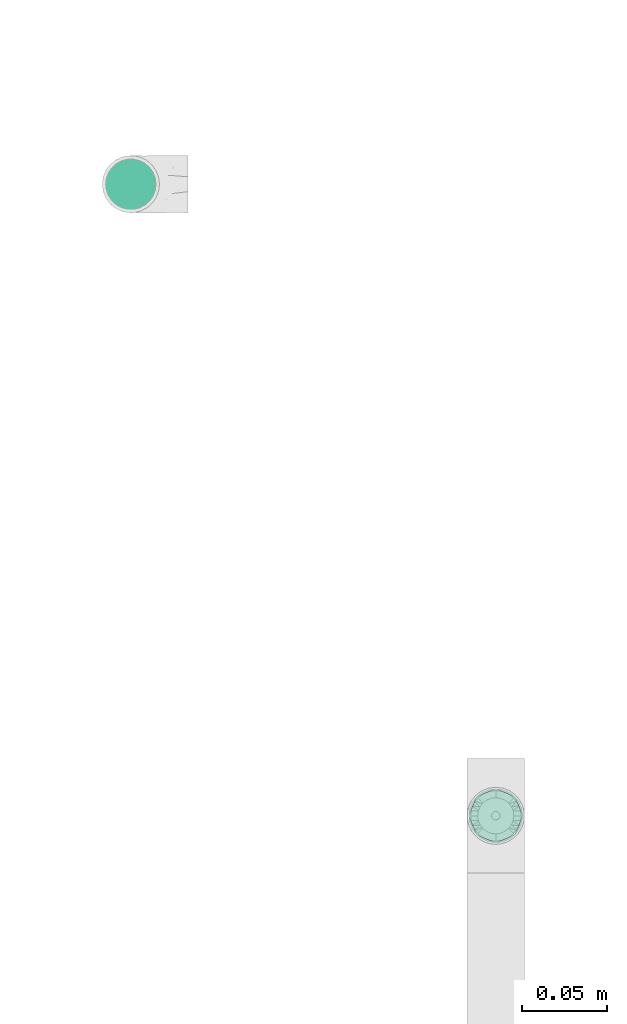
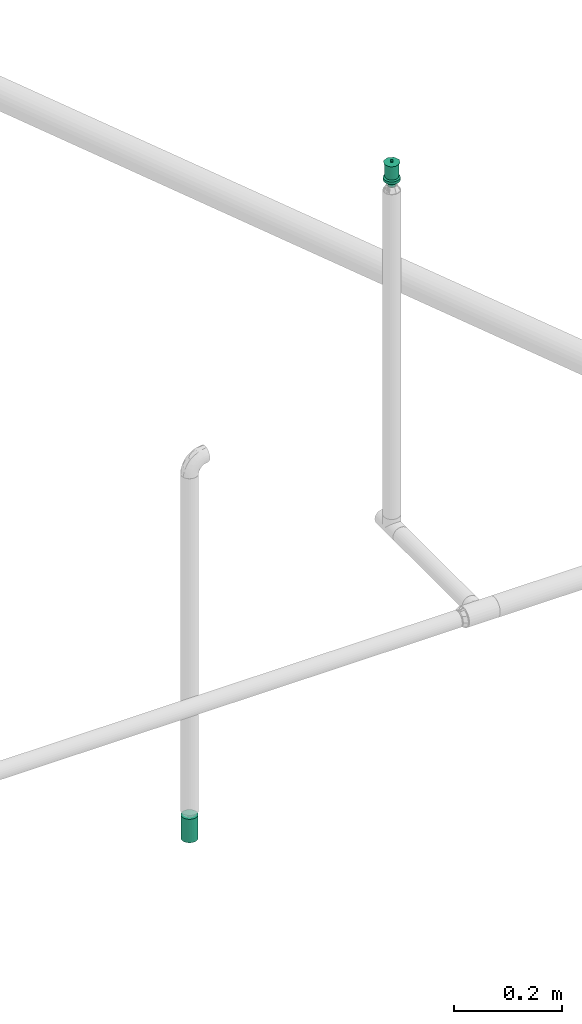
# One storey, part 35 of 94: 2 flow terminals.
"""IFC2X3 building model written with IfcOpenShell, lengths in millimetres."""

from ifc_helpers import new_model, entity, si_unit, converted_unit, derived_unit, direction, frame, origin_with_axes, place, context, subcontext, project, spatial, open_shell, surface_model, source, transform, mapped, type_object, element, save


model = new_model("IFC2X3")

# Units and contexts
model_context = context("Model", 3, precision=0.01, world=frame((0.0, 4.29681676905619e-09, 0.0)), true_north=direction((4.01073788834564e-13, 1.0)))
plan_context = context("Plan", 3, precision=0.01, world=frame((0.0, 4.29681676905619e-09, 0.0)), true_north=direction((4.01073788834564e-13, 1.0)))
body_context = subcontext(model_context, "Body", "Model", "MODEL_VIEW")
ifc_project = project(units=[converted_unit("PLANEANGLEUNIT", "DEGREE", entity("IfcPositiveLengthMeasure", 0.0174532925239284), si_unit("PLANEANGLEUNIT", "RADIAN"), dimensions=[0, 0, 0, 0, 0, 0, 0]), si_unit("AREAUNIT", "SQUARE_METRE"), si_unit("LENGTHUNIT", "METRE", prefix="MILLI"), si_unit("MASSUNIT", "GRAM", prefix="KILO"), si_unit("POWERUNIT", "WATT"), si_unit("PRESSUREUNIT", "PASCAL", prefix="KILO"), si_unit("FORCEUNIT", "NEWTON", prefix="KILO"), si_unit("ELECTRICVOLTAGEUNIT", "VOLT"), si_unit("ELECTRICCURRENTUNIT", "AMPERE"), si_unit("THERMODYNAMICTEMPERATUREUNIT", "DEGREE_CELSIUS"), si_unit("TIMEUNIT", "SECOND"), si_unit("VOLUMEUNIT", "CUBIC_METRE"), derived_unit("LINEARVELOCITYUNIT", [(si_unit("LENGTHUNIT", "METRE"), 1), (si_unit("TIMEUNIT", "SECOND"), -1)]), derived_unit("VOLUMETRICFLOWRATEUNIT", [(si_unit("VOLUMEUNIT", "CUBIC_METRE"), 1), (si_unit("TIMEUNIT", "SECOND"), -1)]), derived_unit("THERMALTRANSMITTANCEUNIT", [(si_unit("POWERUNIT", "WATT"), 1), (si_unit("THERMODYNAMICTEMPERATUREUNIT", "KELVIN"), -1), (si_unit("AREAUNIT", "SQUARE_METRE"), -1)]), derived_unit("SOUNDPRESSUREUNIT", [(si_unit("PRESSUREUNIT", "PASCAL"), 1)])], contexts=[model_context, plan_context])

# Site, building, storey
site_placement = place(None, frame((0.0, -4.29681676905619e-09, 0.0), z_axis=(0.0, 0.0, 1.0), x_axis=(1.0, 0.0, 0.0)))
site = spatial("IfcSite", under=ifc_project, at=site_placement, CompositionType="ELEMENT")
building_placement = place(site_placement, frame((0.0, 4.29681676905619e-09, 0.0), z_axis=(0.0, 0.0, 1.0), x_axis=(1.0, 0.0, 0.0)))
building = spatial("IfcBuilding", under=site, at=building_placement, Name="mc-building", CompositionType="ELEMENT")
storey_placement = place(building_placement, frame((0.0, 0.0, 210900.0), z_axis=(0.0, 0.0, 1.0), x_axis=(1.0, 0.0, 0.0)))
storey = spatial("IfcBuildingStorey", under=building, at=storey_placement, Name="Nivå F", CompositionType="ELEMENT", Elevation=210900.0)

# Flow terminals
fire_suppression_terminal_type_1 = type_object("IfcFireSuppressionTerminalType", Name="68DGR-STD-STÅENDE", PredefinedType="NOTDEFINED")
shared_shape_1 = source(origin_with_axes(), body_context, "Body", "SurfaceModel", [
    surface_model("IfcShellBasedSurfaceModel", [(3.36465, -12.55704, 51.0), (6.5, -11.25833, 51.0), (9.19239, -9.19239, 51.0), (12.55704, -3.36465, 51.0), (-11.25833, -6.5, 51.0), (11.25833, -6.5, 51.0), (-13.0, 0.0, 51.0), (0.0, -13.0, 51.0), (-6.5, -11.25833, 51.0), (-3.36465, -12.55704, 51.0), (-9.19239, -9.19239, 51.0), (-12.55704, -3.36465, 51.0), (13.0, 0.0, 51.0), (12.55704, 3.36465, 51.0), (11.25833, 6.5, 51.0), (9.19239, 9.19239, 51.0), (6.5, 11.25833, 51.0), (3.36465, 12.55704, 51.0), (0.0, 13.0, 51.0), (-3.36465, 12.55704, 51.0), (-12.55704, 3.36465, 51.0), (-9.19239, 9.19239, 51.0), (-11.25833, 6.5, 51.0), (-6.5, 11.25833, 51.0), (0.0, 13.0, 21.14766), (3.36465, 12.55704, 21.14766), (6.5, 11.25833, 21.14766), (-3.36465, 12.55704, 21.14766), (9.19239, 9.19239, 21.14766), (11.25833, 6.5, 21.14766), (12.55704, 3.36465, 21.14766), (-12.55704, 3.36465, 21.14766), (-11.25833, -6.5, 21.14766), (-9.19239, 9.19239, 21.14766), (-6.5, 11.25833, 21.14766), (-11.25833, 6.5, 21.14766), (-13.0, 0.0, 21.14766), (12.55704, -3.36465, 21.14766), (9.19239, -9.19239, 21.14766), (11.25833, -6.5, 21.14766), (6.5, -11.25833, 21.14766), (3.36465, -12.55704, 21.14766), (-6.5, -11.25833, 21.14766), (-9.19239, -9.19239, 21.14766), (-12.55704, -3.36465, 21.14766), (0.0, -13.0, 21.14766), (-3.36465, -12.55704, 21.14766), (13.0, 0.0, 21.14766), (7.24444, -1.94114, 0.1), (1.94114, -7.24444, 0.1), (3.75, -6.49519, 0.1), (5.3033, -5.3033, 0.1), (-5.3033, -5.3033, 0.1), (6.49519, -3.75, 0.1), (5.3033, 5.3033, 0.1), (0.0, -7.5, 0.1), (-3.75, -6.49519, 0.1), (-1.94114, -7.24444, 0.1), (-7.24444, -1.94114, 0.1), (-6.49519, -3.75, 0.1), (-7.24444, 1.94114, 0.1), (7.5, 0.0, 0.1), (6.49519, 3.75, 0.1), (-6.49519, 3.75, 0.1), (1.94114, 7.24444, 0.1), (0.0, 7.5, 0.1), (3.75, 6.49519, 0.1), (-7.5, 0.0, 0.1), (-5.3033, 5.3033, 0.1), (-1.94114, 7.24444, 0.1), (-3.75, 6.49519, 0.1), (7.24444, 1.94114, 0.1), (1.94114, 7.24444, -0.1), (-6.49519, 3.75, -0.1), (0.0, 7.5, -0.1), (5.3033, 5.3033, -0.1), (3.75, 6.49519, -0.1), (6.49519, 3.75, -0.1), (7.24444, 1.94114, -0.1), (-1.94114, 7.24444, -0.1), (-5.3033, 5.3033, -0.1), (-3.75, 6.49519, -0.1), (-7.24444, 1.94114, -0.1), (-7.24444, -1.94114, -0.1), (-7.5, 0.0, -0.1), (7.5, 0.0, -0.1), (7.24444, -1.94114, -0.1), (-5.3033, -5.3033, -0.1), (1.94114, -7.24444, -0.1), (6.49519, -3.75, -0.1), (5.3033, -5.3033, -0.1), (3.75, -6.49519, -0.1), (-6.49519, -3.75, -0.1), (-3.75, -6.49519, -0.1), (0.0, -7.5, -0.1), (-1.94114, -7.24444, -0.1), (0.0, -2.5, 51.0), (-2.5, 0.0, 51.0), (0.0, 2.5, 51.0), (2.5, 0.0, 51.0), (0.0, -16.0, 53.0), (11.31371, -11.31371, 53.0), (-11.31371, -11.31371, 53.0), (-16.0, 0.0, 53.0), (16.0, 0.0, 53.0), (11.31371, 11.31371, 53.0), (0.0, 16.0, 53.0), (-11.31371, 11.31371, 53.0), (1.25, -2.16506, 57.0), (0.0, -2.5, 57.0), (0.64705, -2.41481, 57.0), (2.41481, -0.64705, 57.0), (1.76777, -1.76777, 57.0), (-2.41481, -0.64705, 57.0), (-2.5, 0.0, 57.0), (2.16506, -1.25, 57.0), (-1.25, -2.16506, 57.0), (-0.64705, -2.41481, 57.0), (-1.76777, -1.76777, 57.0), (-2.16506, -1.25, 57.0), (2.5, 0.0, 57.0), (2.41481, 0.64705, 57.0), (2.16506, 1.25, 57.0), (1.76777, 1.76777, 57.0), (0.64705, 2.41481, 57.0), (1.25, 2.16506, 57.0), (-1.76777, 1.76777, 57.0), (0.0, 2.5, 57.0), (-2.16506, 1.25, 57.0), (-2.41481, 0.64705, 57.0), (-0.64705, 2.41481, 57.0), (-1.25, 2.16506, 57.0), (1.25, 2.16506, 51.0), (1.76777, 1.76777, 51.0), (1.15, 1.99186, 51.0), (0.59528, 2.22163, 51.0), (0.64705, 2.41481, 51.0), (0.0, 2.3, 51.0), (1.62635, 1.62635, 51.0), (2.41481, 0.64705, 51.0), (2.3, 0.0, 51.0), (2.22163, 0.59528, 51.0), (2.16506, 1.25, 51.0), (1.99186, 1.15, 51.0), (-0.59528, 2.22163, 51.0), (-0.64705, 2.41481, 51.0), (-1.15, 1.99186, 51.0), (-1.76777, 1.76777, 51.0), (-1.25, 2.16506, 51.0), (-1.62635, 1.62635, 51.0), (-1.99186, 1.15, 51.0), (-2.16506, 1.25, 51.0), (-2.22163, 0.59528, 51.0), (-2.41481, 0.64705, 51.0), (-2.3, 0.0, 51.0), (2.41481, -0.64705, 51.0), (2.22163, -0.59528, 51.0), (1.99186, -1.15, 51.0), (2.16506, -1.25, 51.0), (1.62635, -1.62635, 51.0), (1.76777, -1.76777, 51.0), (1.25, -2.16506, 51.0), (1.15, -1.99186, 51.0), (0.59528, -2.22163, 51.0), (0.64705, -2.41481, 51.0), (0.0, -2.3, 51.0), (-2.16506, -1.25, 51.0), (-1.99186, -1.15, 51.0), (-1.76777, -1.76777, 51.0), (-1.62635, -1.62635, 51.0), (-2.41481, -0.64705, 51.0), (-2.22163, -0.59528, 51.0), (-0.59528, -2.22163, 51.0), (-0.64705, -2.41481, 51.0), (-1.15, -1.99186, 51.0), (-1.25, -2.16506, 51.0), (1.62635, -1.62635, 56.8), (1.15, -1.99186, 56.8), (0.59528, -2.22163, 56.8), (0.0, -2.3, 56.8), (2.22163, 0.59528, 56.8), (1.99186, -1.15, 56.8), (2.22163, -0.59528, 56.8), (-0.59528, -2.22163, 56.8), (-1.15, -1.99186, 56.8), (-1.62635, -1.62635, 56.8), (-1.99186, -1.15, 56.8), (-2.22163, -0.59528, 56.8), (-1.99186, 1.15, 56.8), (2.3, 0.0, 56.8), (1.62635, 1.62635, 56.8), (1.99186, 1.15, 56.8), (1.15, 1.99186, 56.8), (0.0, 2.3, 56.8), (0.59528, 2.22163, 56.8), (-2.22163, 0.59528, 56.8), (-2.3, 0.0, 56.8), (-1.15, 1.99186, 56.8), (-0.59528, 2.22163, 56.8), (-1.62635, 1.62635, 56.8), (4.1411, -15.45481, 19.0), (8.0, -13.85641, 19.0), (11.31371, -11.31371, 19.0), (-8.0, -13.85641, 19.0), (15.45481, -4.1411, 19.0), (16.0, 0.0, 19.0), (13.85641, -8.0, 19.0), (0.0, -16.0, 19.0), (-4.1411, -15.45481, 19.0), (-13.85641, -8.0, 19.0), (-11.31371, -11.31371, 19.0), (-15.45481, -4.1411, 19.0), (15.45481, 4.1411, 19.0), (13.85641, 8.0, 19.0), (11.31371, 11.31371, 19.0), (-4.1411, 15.45481, 19.0), (8.0, 13.85641, 19.0), (4.1411, 15.45481, 19.0), (0.0, 16.0, 19.0), (-13.85641, 8.0, 19.0), (-15.45481, 4.1411, 19.0), (-16.0, 0.0, 19.0), (-11.31371, 11.31371, 19.0), (-8.0, 13.85641, 19.0), (0.0, 16.0, 13.0), (4.1411, 15.45481, 13.0), (8.0, 13.85641, 13.0), (-4.1411, 15.45481, 13.0), (11.31371, 11.31371, 13.0), (13.85641, 8.0, 13.0), (15.45481, 4.1411, 13.0), (-15.45481, -4.1411, 13.0), (-11.31371, 11.31371, 13.0), (-8.0, 13.85641, 13.0), (-13.85641, 8.0, 13.0), (-15.45481, 4.1411, 13.0), (-16.0, 0.0, 13.0), (4.1411, -15.45481, 13.0), (16.0, 0.0, 13.0), (15.45481, -4.1411, 13.0), (13.85641, -8.0, 13.0), (11.31371, -11.31371, 13.0), (8.0, -13.85641, 13.0), (-8.0, -13.85641, 13.0), (-13.85641, -8.0, 13.0), (-11.31371, -11.31371, 13.0), (0.0, -16.0, 13.0), (-4.1411, -15.45481, 13.0), (7.24444, -1.94114, 13.0), (1.94114, -7.24444, 13.0), (3.75, -6.49519, 13.0), (5.3033, -5.3033, 13.0), (-5.3033, -5.3033, 13.0), (6.49519, -3.75, 13.0), (5.3033, 5.3033, 13.0), (0.0, -7.5, 13.0), (-3.75, -6.49519, 13.0), (-1.94114, -7.24444, 13.0), (-7.24444, -1.94114, 13.0), (-6.49519, -3.75, 13.0), (-7.24444, 1.94114, 13.0), (7.5, 0.0, 13.0), (6.49519, 3.75, 13.0), (-6.49519, 3.75, 13.0), (1.94114, 7.24444, 13.0), (0.0, 7.5, 13.0), (3.75, 6.49519, 13.0), (-7.5, 0.0, 13.0), (-5.3033, 5.3033, 13.0), (-1.94114, 7.24444, 13.0), (-3.75, 6.49519, 13.0), (7.24444, 1.94114, 13.0), (3.75, 6.49519, 0.0), (5.3033, 5.3033, 0.0), (3.65, 6.32199, 0.0), (1.88938, 7.05126, 0.0), (0.0, 7.3, 0.0), (1.94114, 7.24444, 0.0), (0.0, 7.5, 0.0), (5.16188, 5.16188, 0.0), (7.24444, 1.94114, 0.0), (7.3, 0.0, 0.0), (7.05126, 1.88938, 0.0), (7.5, 0.0, 0.0), (6.49519, 3.75, 0.0), (6.32199, 3.65, 0.0), (-1.88938, 7.05126, 0.0), (-1.94114, 7.24444, 0.0), (-3.65, 6.32199, 0.0), (-5.3033, 5.3033, 0.0), (-3.75, 6.49519, 0.0), (-5.16188, 5.16188, 0.0), (-6.32199, 3.65, 0.0), (-6.49519, 3.75, 0.0), (-7.05126, 1.88938, 0.0), (-7.24444, 1.94114, 0.0), (-7.3, 0.0, 0.0), (-7.5, 0.0, 0.0), (7.24444, -1.94114, 0.0), (7.05126, -1.88938, 0.0), (6.32199, -3.65, 0.0), (6.49519, -3.75, 0.0), (5.16188, -5.16188, 0.0), (5.3033, -5.3033, 0.0), (3.75, -6.49519, 0.0), (3.65, -6.32199, 0.0), (1.88938, -7.05126, 0.0), (1.94114, -7.24444, 0.0), (0.0, -7.3, 0.0), (0.0, -7.5, 0.0), (-6.49519, -3.75, 0.0), (-6.32199, -3.65, 0.0), (-5.3033, -5.3033, 0.0), (-5.16188, -5.16188, 0.0), (-7.24444, -1.94114, 0.0), (-7.05126, -1.88938, 0.0), (-1.88938, -7.05126, 0.0), (-1.94114, -7.24444, 0.0), (-3.65, -6.32199, 0.0), (-3.75, -6.49519, 0.0), (1.88938, -7.05126, 12.8), (0.0, -7.3, 12.8), (3.65, -6.32199, 12.8), (5.16188, -5.16188, 12.8), (6.32199, -3.65, 12.8), (7.05126, 1.88938, 12.8), (7.05126, -1.88938, 12.8), (-5.16188, -5.16188, 12.8), (-1.88938, -7.05126, 12.8), (-3.65, -6.32199, 12.8), (-6.32199, -3.65, 12.8), (-7.05126, -1.88938, 12.8), (0.0, 7.3, 12.8), (7.3, 0.0, 12.8), (6.32199, 3.65, 12.8), (5.16188, 5.16188, 12.8), (3.65, 6.32199, 12.8), (1.88938, 7.05126, 12.8), (-6.32199, 3.65, 12.8), (-7.05126, 1.88938, 12.8), (-7.3, 0.0, 12.8), (-3.65, 6.32199, 12.8), (-1.88938, 7.05126, 12.8), (-5.16188, 5.16188, 12.8)], [open_shell([[[0, 1, 2]], [[0, 2, 3]], [[0, 3, 4]], [[3, 2, 5]], [[6, 4, 3]], [[7, 8, 9]], [[7, 0, 8]], [[8, 4, 10]], [[0, 4, 8]], [[4, 6, 11]], [[6, 3, 12]], [[13, 14, 15]], [[6, 13, 15]], [[16, 17, 18]], [[15, 16, 19]], [[18, 19, 16]], [[20, 21, 22]], [[20, 6, 15]], [[21, 19, 23]], [[19, 21, 20]], [[15, 19, 20]], [[13, 6, 12]], [[24, 25, 26]], [[27, 24, 26]], [[28, 29, 30]], [[26, 28, 31]], [[28, 32, 31]], [[27, 33, 34]], [[33, 27, 31]], [[33, 31, 35]], [[27, 26, 31]], [[31, 32, 36]], [[32, 28, 30]], [[32, 30, 37]], [[38, 37, 39]], [[38, 40, 41]], [[38, 41, 37]], [[32, 37, 41]], [[32, 42, 43]], [[44, 36, 32]], [[42, 45, 46]], [[42, 32, 41]], [[45, 42, 41]], [[30, 47, 37]], [[4, 32, 43]], [[8, 42, 46]], [[43, 42, 10]], [[9, 46, 45]], [[36, 11, 6]], [[11, 36, 44]], [[11, 44, 4]], [[44, 32, 4]], [[43, 10, 4]], [[8, 10, 42]], [[46, 9, 8]], [[45, 7, 9]], [[0, 41, 40]], [[38, 1, 40]], [[5, 39, 37]], [[38, 39, 2]], [[3, 37, 47]], [[41, 0, 7]], [[40, 1, 0]], [[38, 2, 1]], [[39, 5, 2]], [[3, 5, 37]], [[47, 12, 3]], [[41, 7, 45]], [[30, 13, 47]], [[29, 14, 30]], [[25, 24, 17]], [[15, 29, 28]], [[30, 14, 13]], [[13, 12, 47]], [[16, 26, 17]], [[16, 15, 28]], [[26, 25, 17]], [[15, 14, 29]], [[28, 26, 16]], [[24, 18, 17]], [[19, 27, 34]], [[33, 23, 34]], [[22, 35, 31]], [[33, 35, 21]], [[20, 31, 36]], [[27, 19, 18]], [[34, 23, 19]], [[33, 21, 23]], [[35, 22, 21]], [[20, 22, 31]], [[36, 6, 20]], [[27, 18, 24]], [[48, 49, 50]], [[48, 50, 51]], [[49, 48, 52]], [[48, 51, 53]], [[54, 52, 48]], [[55, 56, 57]], [[56, 55, 52]], [[52, 58, 59]], [[52, 55, 49]], [[52, 60, 58]], [[54, 48, 61]], [[62, 54, 61]], [[54, 63, 52]], [[64, 65, 54]], [[64, 54, 66]], [[63, 54, 65]], [[63, 60, 52]], [[67, 58, 60]], [[68, 69, 70]], [[69, 68, 63]], [[69, 63, 65]], [[71, 62, 61]], [[72, 73, 74]], [[75, 72, 76]], [[75, 77, 78]], [[72, 75, 73]], [[78, 73, 75]], [[79, 80, 81]], [[80, 79, 73]], [[74, 73, 79]], [[78, 82, 73]], [[82, 83, 84]], [[82, 78, 85]], [[86, 87, 85]], [[88, 86, 89]], [[90, 91, 88]], [[90, 88, 89]], [[87, 86, 88]], [[83, 87, 92]], [[83, 85, 87]], [[93, 94, 95]], [[94, 93, 87]], [[88, 94, 87]], [[85, 83, 82]], [[83, 58, 84]], [[92, 59, 83]], [[56, 87, 93]], [[92, 87, 52]], [[57, 93, 95]], [[83, 59, 58]], [[58, 67, 84]], [[57, 56, 93]], [[52, 87, 56]], [[52, 59, 92]], [[55, 57, 95]], [[95, 94, 55]], [[88, 49, 94]], [[91, 50, 88]], [[53, 90, 89]], [[91, 90, 51]], [[48, 89, 86]], [[91, 51, 50]], [[50, 49, 88]], [[61, 48, 86]], [[53, 89, 48]], [[53, 51, 90]], [[85, 61, 86]], [[94, 49, 55]], [[78, 71, 85]], [[77, 62, 78]], [[66, 75, 76]], [[77, 75, 54]], [[64, 76, 72]], [[78, 62, 71]], [[71, 61, 85]], [[64, 66, 76]], [[54, 75, 66]], [[54, 62, 77]], [[65, 64, 72]], [[72, 74, 65]], [[79, 69, 74]], [[81, 70, 79]], [[63, 80, 73]], [[81, 80, 68]], [[60, 73, 82]], [[81, 68, 70]], [[70, 69, 79]], [[67, 60, 82]], [[63, 73, 60]], [[63, 68, 80]], [[84, 67, 82]], [[74, 69, 65]], [[96, 97, 98]], [[98, 99, 96]], [[100, 101, 102]], [[103, 102, 101]], [[101, 104, 103]], [[104, 105, 106]], [[107, 103, 106]], [[106, 103, 104]], [[99, 98, 105]], [[105, 104, 99]], [[98, 106, 105]], [[98, 107, 106]], [[107, 98, 97]], [[103, 107, 97]], [[97, 96, 102]], [[102, 103, 97]], [[96, 100, 102]], [[96, 101, 100]], [[101, 96, 99]], [[104, 101, 99]], [[108, 109, 110]], [[111, 108, 112]], [[113, 108, 114]], [[111, 112, 115]], [[108, 111, 114]], [[109, 116, 117]], [[116, 109, 118]], [[118, 113, 119]], [[118, 109, 108]], [[108, 113, 118]], [[111, 120, 114]], [[121, 122, 123]], [[114, 121, 123]], [[114, 123, 124]], [[124, 123, 125]], [[126, 124, 127]], [[124, 128, 129]], [[129, 114, 124]], [[126, 130, 131]], [[128, 124, 126]], [[130, 126, 127]], [[121, 114, 120]], [[132, 133, 134]], [[132, 134, 135]], [[136, 135, 137]], [[135, 136, 132]], [[136, 137, 98]], [[134, 133, 138]], [[139, 140, 141]], [[140, 139, 99]], [[139, 141, 142]], [[138, 142, 143]], [[142, 138, 133]], [[143, 142, 141]], [[98, 144, 145]], [[98, 137, 144]], [[145, 144, 146]], [[147, 148, 149]], [[146, 148, 145]], [[149, 148, 146]], [[150, 151, 147]], [[151, 150, 152]], [[150, 147, 149]], [[153, 152, 154]], [[152, 153, 151]], [[153, 154, 97]], [[99, 155, 156]], [[156, 155, 157]], [[157, 158, 159]], [[158, 157, 155]], [[159, 158, 160]], [[160, 161, 162]], [[162, 161, 163]], [[163, 164, 165]], [[164, 163, 161]], [[165, 164, 96]], [[162, 159, 160]], [[166, 167, 168]], [[168, 167, 169]], [[167, 166, 170]], [[97, 171, 170]], [[170, 171, 167]], [[97, 154, 171]], [[172, 96, 173]], [[172, 173, 174]], [[169, 175, 168]], [[175, 169, 174]], [[175, 174, 173]], [[165, 96, 172]], [[156, 140, 99]], [[170, 113, 97]], [[166, 119, 170]], [[116, 168, 175]], [[166, 168, 118]], [[117, 175, 173]], [[170, 119, 113]], [[113, 114, 97]], [[117, 116, 175]], [[118, 168, 116]], [[118, 119, 166]], [[109, 117, 173]], [[173, 96, 109]], [[164, 110, 96]], [[161, 108, 164]], [[115, 160, 158]], [[161, 160, 112]], [[111, 158, 155]], [[161, 112, 108]], [[108, 110, 164]], [[120, 111, 155]], [[115, 158, 111]], [[115, 112, 160]], [[99, 120, 155]], [[96, 110, 109]], [[139, 121, 99]], [[142, 122, 139]], [[125, 133, 132]], [[142, 133, 123]], [[124, 132, 136]], [[139, 122, 121]], [[121, 120, 99]], [[124, 125, 132]], [[123, 133, 125]], [[123, 122, 142]], [[127, 124, 136]], [[136, 98, 127]], [[145, 130, 98]], [[148, 131, 145]], [[128, 147, 151]], [[148, 147, 126]], [[129, 151, 153]], [[148, 126, 131]], [[131, 130, 145]], [[114, 129, 153]], [[128, 151, 129]], [[128, 126, 147]], [[97, 114, 153]], [[98, 130, 127]], [[176, 177, 178]], [[176, 178, 179]], [[180, 176, 179]], [[181, 176, 182]], [[180, 182, 176]], [[183, 184, 179]], [[185, 179, 184]], [[186, 187, 185]], [[185, 187, 188]], [[179, 185, 188]], [[189, 182, 180]], [[190, 191, 180]], [[192, 190, 180]], [[193, 194, 192]], [[180, 193, 192]], [[188, 193, 180]], [[195, 188, 196]], [[196, 188, 187]], [[197, 198, 199]], [[188, 199, 198]], [[188, 198, 193]], [[180, 179, 188]], [[154, 187, 171]], [[171, 186, 167]], [[174, 169, 184]], [[185, 169, 167]], [[172, 174, 183]], [[187, 186, 171]], [[154, 196, 187]], [[174, 184, 183]], [[184, 169, 185]], [[167, 186, 185]], [[172, 183, 179]], [[179, 165, 172]], [[165, 178, 163]], [[163, 177, 162]], [[157, 159, 181]], [[176, 159, 162]], [[156, 157, 182]], [[177, 176, 162]], [[163, 178, 177]], [[156, 182, 189]], [[182, 157, 181]], [[159, 176, 181]], [[156, 189, 140]], [[179, 178, 165]], [[140, 180, 141]], [[141, 191, 143]], [[134, 138, 192]], [[190, 138, 143]], [[135, 134, 194]], [[180, 191, 141]], [[140, 189, 180]], [[134, 192, 194]], [[192, 138, 190]], [[143, 191, 190]], [[135, 194, 193]], [[193, 137, 135]], [[137, 198, 144]], [[144, 197, 146]], [[150, 149, 188]], [[199, 149, 146]], [[152, 150, 195]], [[197, 199, 146]], [[144, 198, 197]], [[152, 195, 196]], [[195, 150, 188]], [[149, 199, 188]], [[152, 196, 154]], [[193, 198, 137]], [[200, 201, 202]], [[203, 200, 202]], [[204, 205, 202]], [[204, 202, 206]], [[203, 202, 205]], [[207, 203, 208]], [[207, 200, 203]], [[203, 209, 210]], [[209, 203, 211]], [[205, 211, 203]], [[205, 212, 211]], [[212, 213, 214]], [[215, 212, 214]], [[216, 217, 218]], [[214, 216, 215]], [[218, 215, 216]], [[211, 219, 220]], [[221, 211, 220]], [[222, 215, 223]], [[215, 222, 219]], [[219, 211, 215]], [[211, 212, 215]], [[224, 225, 226]], [[227, 224, 226]], [[228, 229, 230]], [[227, 226, 228]], [[227, 228, 231]], [[227, 232, 233]], [[232, 227, 234]], [[234, 231, 235]], [[231, 234, 227]], [[235, 231, 236]], [[228, 230, 231]], [[237, 238, 239]], [[237, 239, 240]], [[241, 242, 237]], [[241, 237, 240]], [[238, 237, 243]], [[244, 243, 245]], [[243, 244, 231]], [[243, 246, 247]], [[243, 231, 238]], [[237, 246, 243]], [[238, 231, 230]], [[231, 211, 236]], [[244, 209, 231]], [[203, 245, 243]], [[244, 245, 210]], [[208, 243, 247]], [[231, 209, 211]], [[211, 221, 236]], [[208, 203, 243]], [[210, 245, 203]], [[210, 209, 244]], [[207, 208, 247]], [[247, 246, 207]], [[237, 200, 246]], [[242, 201, 237]], [[206, 241, 240]], [[242, 241, 202]], [[204, 240, 239]], [[242, 202, 201]], [[201, 200, 237]], [[205, 204, 239]], [[206, 240, 204]], [[206, 202, 241]], [[238, 205, 239]], [[246, 200, 207]], [[230, 212, 238]], [[229, 213, 230]], [[216, 228, 226]], [[229, 228, 214]], [[217, 226, 225]], [[230, 213, 212]], [[212, 205, 238]], [[217, 216, 226]], [[214, 228, 216]], [[214, 213, 229]], [[218, 217, 225]], [[225, 224, 218]], [[227, 215, 224]], [[233, 223, 227]], [[219, 232, 234]], [[233, 232, 222]], [[220, 234, 235]], [[233, 222, 223]], [[223, 215, 227]], [[221, 220, 235]], [[219, 234, 220]], [[219, 222, 232]], [[236, 221, 235]], [[224, 215, 218]], [[248, 249, 250]], [[248, 250, 251]], [[249, 248, 252]], [[248, 251, 253]], [[254, 252, 248]], [[255, 256, 257]], [[256, 255, 252]], [[252, 258, 259]], [[252, 255, 249]], [[252, 260, 258]], [[254, 248, 261]], [[262, 254, 261]], [[254, 263, 252]], [[264, 265, 254]], [[264, 254, 266]], [[263, 254, 265]], [[263, 260, 252]], [[267, 258, 260]], [[268, 269, 270]], [[269, 268, 263]], [[269, 263, 265]], [[271, 262, 261]], [[272, 273, 274]], [[272, 274, 275]], [[276, 277, 275]], [[277, 276, 278]], [[275, 277, 272]], [[274, 273, 279]], [[280, 281, 282]], [[281, 280, 283]], [[280, 282, 284]], [[279, 284, 285]], [[284, 279, 273]], [[285, 284, 282]], [[278, 286, 287]], [[287, 286, 288]], [[289, 290, 291]], [[288, 290, 287]], [[288, 291, 290]], [[278, 276, 286]], [[292, 293, 289]], [[293, 292, 294]], [[292, 289, 291]], [[295, 294, 296]], [[294, 295, 293]], [[295, 296, 297]], [[283, 298, 299]], [[299, 298, 300]], [[300, 301, 302]], [[301, 300, 298]], [[302, 301, 303]], [[303, 304, 305]], [[305, 304, 306]], [[306, 307, 308]], [[307, 306, 304]], [[308, 307, 309]], [[305, 302, 303]], [[310, 311, 312]], [[312, 311, 313]], [[311, 310, 314]], [[297, 315, 314]], [[314, 315, 311]], [[297, 296, 315]], [[316, 309, 317]], [[316, 317, 318]], [[313, 319, 312]], [[313, 318, 319]], [[319, 318, 317]], [[308, 309, 316]], [[299, 281, 283]], [[314, 258, 297]], [[310, 259, 314]], [[256, 312, 319]], [[310, 312, 252]], [[257, 319, 317]], [[314, 259, 258]], [[258, 267, 297]], [[257, 256, 319]], [[252, 312, 256]], [[252, 259, 310]], [[255, 257, 317]], [[317, 309, 255]], [[307, 249, 309]], [[304, 250, 307]], [[253, 303, 301]], [[304, 303, 251]], [[248, 301, 298]], [[304, 251, 250]], [[250, 249, 307]], [[261, 248, 298]], [[253, 301, 248]], [[253, 251, 303]], [[283, 261, 298]], [[309, 249, 255]], [[280, 271, 283]], [[284, 262, 280]], [[266, 273, 272]], [[284, 273, 254]], [[264, 272, 277]], [[280, 262, 271]], [[271, 261, 283]], [[264, 266, 272]], [[254, 273, 266]], [[254, 262, 284]], [[265, 264, 277]], [[277, 278, 265]], [[287, 269, 278]], [[290, 270, 287]], [[263, 289, 293]], [[290, 289, 268]], [[260, 293, 295]], [[290, 268, 270]], [[270, 269, 287]], [[267, 260, 295]], [[263, 293, 260]], [[263, 268, 289]], [[297, 267, 295]], [[278, 269, 265]], [[320, 321, 322]], [[323, 322, 324]], [[325, 326, 322]], [[324, 322, 326]], [[322, 327, 325]], [[328, 329, 321]], [[327, 321, 329]], [[330, 331, 327]], [[322, 321, 327]], [[331, 332, 327]], [[326, 325, 333]], [[334, 325, 332]], [[335, 334, 336]], [[332, 337, 336]], [[334, 332, 336]], [[331, 338, 332]], [[339, 338, 340]], [[340, 338, 331]], [[341, 342, 343]], [[332, 338, 343]], [[332, 343, 342]], [[332, 325, 327]], [[296, 331, 315]], [[315, 330, 311]], [[318, 313, 329]], [[327, 313, 311]], [[316, 318, 328]], [[331, 330, 315]], [[296, 340, 331]], [[318, 329, 328]], [[329, 313, 327]], [[311, 330, 327]], [[316, 328, 321]], [[321, 308, 316]], [[308, 320, 306]], [[306, 322, 305]], [[300, 302, 324]], [[323, 302, 305]], [[299, 300, 326]], [[322, 323, 305]], [[306, 320, 322]], [[299, 326, 333]], [[326, 300, 324]], [[302, 323, 324]], [[299, 333, 281]], [[321, 320, 308]], [[281, 325, 282]], [[282, 334, 285]], [[274, 279, 336]], [[335, 279, 285]], [[275, 274, 337]], [[325, 334, 282]], [[281, 333, 325]], [[274, 336, 337]], [[336, 279, 335]], [[285, 334, 335]], [[275, 337, 332]], [[332, 276, 275]], [[276, 342, 286]], [[286, 341, 288]], [[292, 291, 338]], [[343, 291, 288]], [[294, 292, 339]], [[341, 343, 288]], [[286, 342, 341]], [[294, 339, 340]], [[339, 292, 338]], [[291, 343, 338]], [[294, 340, 296]], [[332, 342, 276]]])]),
])
flow_terminal_1_placement = place(storey_placement, frame((719215.77033, 438227.23424, 4367.0), z_axis=(0.0, 0.0, 1.0), x_axis=(1.0, 0.0, 0.0)))
element("IfcFlowTerminal", 1, at=flow_terminal_1_placement, inside=storey, type_object=fire_suppression_terminal_type_1, Name="68DGR-STD-STÅENDE", context=body_context, shape_type="MappedRepresentation", body=[
    mapped(shared_shape_1, transform((0.0, 0.0, 0.0), scale=1.0)),
])
fire_suppression_terminal_type_2 = type_object("IfcFireSuppressionTerminalType", Name="SP-15-K80-68DGR-STD-HIMLING", PredefinedType="NOTDEFINED")
shared_shape_2 = source(origin_with_axes(), body_context, "Body", "SurfaceModel", [
    surface_model("IfcShellBasedSurfaceModel", [(4.1411, -15.45481, 53.0), (8.0, -13.85641, 53.0), (11.31371, -11.31371, 53.0), (-8.0, -13.85641, 53.0), (15.45481, -4.1411, 53.0), (16.0, 0.0, 53.0), (13.85641, -8.0, 53.0), (0.0, -16.0, 53.0), (-4.1411, -15.45481, 53.0), (-13.85641, -8.0, 53.0), (-11.31371, -11.31371, 53.0), (-15.45481, -4.1411, 53.0), (15.45481, 4.1411, 53.0), (13.85641, 8.0, 53.0), (11.31371, 11.31371, 53.0), (-4.1411, 15.45481, 53.0), (8.0, 13.85641, 53.0), (4.1411, 15.45481, 53.0), (0.0, 16.0, 53.0), (-13.85641, 8.0, 53.0), (-15.45481, 4.1411, 53.0), (-16.0, 0.0, 53.0), (-11.31371, 11.31371, 53.0), (-8.0, 13.85641, 53.0), (0.0, 16.0, 0.0), (4.1411, 15.45481, 0.0), (8.0, 13.85641, 0.0), (-4.1411, 15.45481, 0.0), (11.31371, 11.31371, 0.0), (13.85641, 8.0, 0.0), (15.45481, 4.1411, 0.0), (-15.45481, -4.1411, 0.0), (-11.31371, 11.31371, 0.0), (-8.0, 13.85641, 0.0), (-13.85641, 8.0, 0.0), (-15.45481, 4.1411, 0.0), (-16.0, 0.0, 0.0), (4.1411, -15.45481, 0.0), (16.0, 0.0, 0.0), (15.45481, -4.1411, 0.0), (13.85641, -8.0, 0.0), (11.31371, -11.31371, 0.0), (8.0, -13.85641, 0.0), (-8.0, -13.85641, 0.0), (-13.85641, -8.0, 0.0), (-11.31371, -11.31371, 0.0), (0.0, -16.0, 0.0), (-4.1411, -15.45481, 0.0)], [open_shell([[[0, 1, 2]], [[3, 0, 2]], [[4, 5, 2]], [[4, 2, 6]], [[3, 2, 5]], [[7, 3, 8]], [[7, 0, 3]], [[3, 9, 10]], [[9, 3, 11]], [[5, 11, 3]], [[5, 12, 11]], [[12, 13, 14]], [[15, 12, 14]], [[16, 17, 18]], [[14, 16, 15]], [[18, 15, 16]], [[11, 19, 20]], [[21, 11, 20]], [[22, 15, 23]], [[15, 22, 19]], [[19, 11, 15]], [[11, 12, 15]], [[24, 25, 26]], [[27, 24, 26]], [[28, 29, 30]], [[27, 26, 28]], [[27, 28, 31]], [[27, 32, 33]], [[32, 27, 34]], [[34, 31, 35]], [[31, 34, 27]], [[35, 31, 36]], [[28, 30, 31]], [[37, 38, 39]], [[37, 39, 40]], [[41, 42, 37]], [[41, 37, 40]], [[38, 37, 43]], [[44, 43, 45]], [[43, 44, 31]], [[43, 46, 47]], [[43, 31, 38]], [[37, 46, 43]], [[38, 31, 30]], [[11, 31, 44]], [[45, 9, 44]], [[3, 43, 47]], [[45, 43, 10]], [[8, 47, 46]], [[31, 21, 36]], [[31, 11, 21]], [[44, 9, 11]], [[45, 10, 9]], [[3, 10, 43]], [[47, 8, 3]], [[46, 7, 8]], [[0, 37, 42]], [[41, 1, 42]], [[6, 40, 39]], [[41, 40, 2]], [[4, 39, 38]], [[37, 0, 7]], [[42, 1, 0]], [[41, 2, 1]], [[40, 6, 2]], [[4, 6, 39]], [[38, 5, 4]], [[37, 7, 46]], [[12, 38, 30]], [[13, 30, 29]], [[16, 26, 25]], [[17, 25, 24]], [[30, 13, 12]], [[12, 5, 38]], [[28, 14, 13]], [[28, 26, 14]], [[14, 26, 16]], [[25, 17, 16]], [[28, 13, 29]], [[24, 18, 17]], [[15, 27, 33]], [[32, 23, 33]], [[19, 34, 35]], [[32, 34, 22]], [[20, 35, 36]], [[27, 15, 18]], [[33, 23, 15]], [[32, 22, 23]], [[34, 19, 22]], [[20, 19, 35]], [[36, 21, 20]], [[27, 18, 24]]])]),
])
flow_terminal_2_placement = place(storey_placement, frame((719000.0, 438600.7, 2797.53873999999), z_axis=(0.0, 0.0, -1.0), x_axis=(-1.0, 0.0, 0.0)))
element("IfcFlowTerminal", 2, at=flow_terminal_2_placement, inside=storey, type_object=fire_suppression_terminal_type_2, Name="SP-15-K80-68DGR-STD-HIMLING", context=body_context, shape_type="MappedRepresentation", body=[
    mapped(shared_shape_2, transform((0.0, 0.0, 0.0), scale=1.0)),
])

save(model, "model.ifc")
